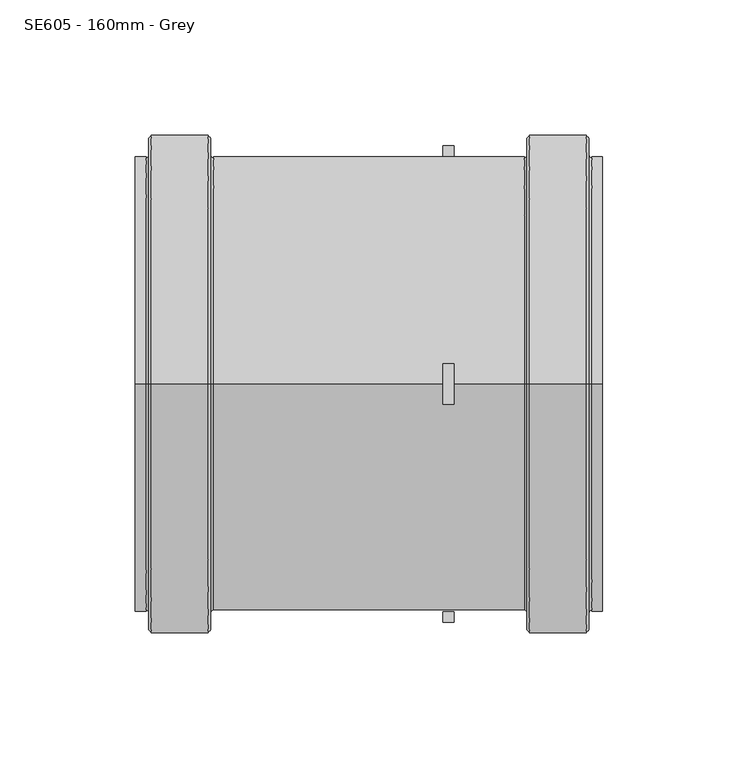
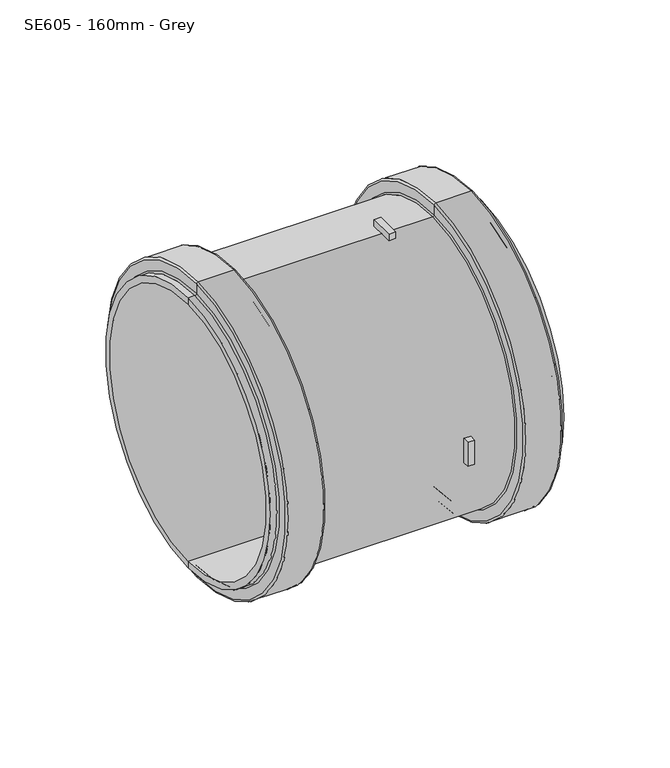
"""IFC4 building model written with IfcOpenShell, lengths in millimetres: pipe fitting geometry, MarleyPlumbingAndDrainage_PipeFitting_DoubleRingCoupling_SE305 : SE605 - 160mm - Grey."""

from ifc_helpers import new_model, si_unit, point, frame, origin, place, context, project, spatial, polyline, circle_curve, ellipse_curve, trimmed, source, transform, mapped, element, save
from ifc_brep_helpers import plane_surface, cylinder_surface, revolved_surface, advanced_brep


def se605_160mm_grey_3b880e0b(model_context):
    return source(origin(), model_context, "Body", "AdvancedBrep", [
        advanced_brep(
        [(-72.3253818, 0.0, -84.0), (-72.3253818, 0.0, 84.0), (42.6746182, 0.0, 84.0), (42.6746182, 0.0, -84.0), (71.6746182, 0.0, -80.0), (71.6746182, 0.0, 80.0), (-101.3253818, 0.0, 80.0), (-101.3253818, 0.0, -80.0), (71.6746182, 0.0, -84.0), (71.6746182, 0.0, 84.0), (67.6746182, 0.0, -84.0), (67.6746182, 0.0, 84.0), (66.6746182, 0.0, -85.0), (66.6746182, 0.0, 85.0), (66.6746182, 0.0, -91.0), (66.6746182, 0.0, 91.0), (65.6746182, 0.0, -92.0), (65.6746182, 0.0, 92.0), (44.6746182, 0.0, -92.0), (44.6746182, 0.0, 92.0), (43.6746182, 0.0, -91.0), (43.6746182, 0.0, 91.0), (43.6746182, 0.0, -85.0), (43.6746182, 0.0, 85.0), (-73.3253818, 0.0, -85.0), (-73.3253818, 0.0, 85.0), (-73.3253818, 0.0, -91.0), (-73.3253818, 0.0, 91.0), (-74.3253818, 0.0, -92.0), (-74.3253818, 0.0, 92.0), (-95.3253818, 0.0, -92.0), (-95.3253818, 0.0, 92.0), (-96.3253818, 0.0, -91.0), (-96.3253818, 0.0, 91.0), (-96.3253818, 0.0, -85.0), (-96.3253818, 0.0, 85.0), (-97.3253818, 0.0, -84.0), (-97.3253818, 0.0, 84.0), (-101.3253818, 0.0, -84.0), (-101.3253818, 0.0, 84.0)],
        [
            (0, 1, circle_curve(frame((-72.3253818, 0.0, 0.0), z_axis=(1.0, 0.0, 0.0), x_axis=(0.0, 0.0, 1.0)), 84.0)),
            (1, 2),
            (2, 3, circle_curve(frame((42.6746182, 0.0, 0.0), z_axis=(-1.0, 0.0, 0.0), x_axis=(0.0, 0.0, 1.0)), 84.0)),
            (3, 0),
            (1, 0, circle_curve(frame((-72.3253818, 0.0, 0.0), z_axis=(1.0, 0.0, 0.0), x_axis=(0.0, 0.0, 1.0)), 84.0)),
            (3, 2, circle_curve(frame((42.6746182, 0.0, 0.0), z_axis=(-1.0, 0.0, 0.0), x_axis=(0.0, 0.0, 1.0)), 84.0)),
            (4, 5, circle_curve(frame((71.6746182, 0.0, 0.0), z_axis=(1.0, 0.0, 0.0), x_axis=(0.0, 0.0, 1.0)), 80.0)),
            (5, 6),
            (6, 7, circle_curve(frame((-101.3253818, 0.0, 0.0), z_axis=(-1.0, 0.0, 0.0), x_axis=(0.0, 0.0, 1.0)), 80.0)),
            (7, 4),
            (5, 4, circle_curve(frame((71.6746182, 0.0, 0.0), z_axis=(1.0, 0.0, 0.0), x_axis=(0.0, 0.0, 1.0)), 80.0)),
            (7, 6, circle_curve(frame((-101.3253818, 0.0, 0.0), z_axis=(-1.0, 0.0, 0.0), x_axis=(0.0, 0.0, 1.0)), 80.0)),
            (4, 8),
            (8, 9, circle_curve(frame((71.6746182, 0.0, 0.0), z_axis=(1.0, 0.0, 0.0), x_axis=(0.0, 0.0, 1.0)), 84.0)),
            (9, 5),
            (9, 8, circle_curve(frame((71.6746182, 0.0, 0.0), z_axis=(1.0, 0.0, 0.0), x_axis=(0.0, 0.0, 1.0)), 84.0)),
            (8, 10),
            (10, 11, circle_curve(frame((67.6746182, 0.0, 0.0), z_axis=(1.0, 0.0, 0.0), x_axis=(0.0, 0.0, 1.0)), 84.0)),
            (11, 9),
            (11, 10, circle_curve(frame((67.6746182, 0.0, 0.0), z_axis=(1.0, 0.0, 0.0), x_axis=(0.0, 0.0, 1.0)), 84.0)),
            (10, 12, circle_curve(frame((67.6746182, 0.0, -85.0), z_axis=(0.0, -1.0, 0.0), x_axis=(1.0, 0.0, 0.0)), 1.0)),
            (12, 13, circle_curve(frame((66.6746182, 0.0, 0.0), z_axis=(1.0, 0.0, 0.0), x_axis=(0.0, 0.0, 1.0)), 85.0)),
            (13, 11, circle_curve(frame((67.6746182, 0.0, 85.0), z_axis=(0.0, -1.0, 0.0), x_axis=(1.0, 0.0, 0.0)), 1.0)),
            (13, 12, circle_curve(frame((66.6746182, 0.0, 0.0), z_axis=(1.0, 0.0, 0.0), x_axis=(0.0, 0.0, 1.0)), 85.0)),
            (12, 14),
            (14, 15, circle_curve(frame((66.6746182, 0.0, 0.0), z_axis=(1.0, 0.0, 0.0), x_axis=(0.0, 0.0, 1.0)), 91.0)),
            (15, 13),
            (15, 14, circle_curve(frame((66.6746182, 0.0, 0.0), z_axis=(1.0, 0.0, 0.0), x_axis=(0.0, 0.0, 1.0)), 91.0)),
            (14, 16, circle_curve(frame((65.6746182, 0.0, -91.0), z_axis=(0.0, 1.0, 0.0), x_axis=(1.0, 0.0, 0.0)), 1.0)),
            (16, 17, circle_curve(frame((65.6746182, 0.0, 0.0), z_axis=(1.0, 0.0, 0.0), x_axis=(0.0, 0.0, 1.0)), 92.0)),
            (17, 15, circle_curve(frame((65.6746182, 0.0, 91.0), z_axis=(0.0, 1.0, 0.0), x_axis=(1.0, 0.0, 0.0)), 1.0)),
            (17, 16, circle_curve(frame((65.6746182, 0.0, 0.0), z_axis=(1.0, 0.0, 0.0), x_axis=(0.0, 0.0, 1.0)), 92.0)),
            (16, 18),
            (18, 19, circle_curve(frame((44.6746182, 0.0, 0.0), z_axis=(1.0, 0.0, 0.0), x_axis=(0.0, 0.0, 1.0)), 92.0)),
            (19, 17),
            (19, 18, circle_curve(frame((44.6746182, 0.0, 0.0), z_axis=(1.0, 0.0, 0.0), x_axis=(0.0, 0.0, 1.0)), 92.0)),
            (18, 20, circle_curve(frame((44.6746182, 0.0, -91.0), z_axis=(0.0, 1.0, 0.0), x_axis=(1.0, 0.0, 0.0)), 1.0)),
            (20, 21, circle_curve(frame((43.6746182, 0.0, 0.0), z_axis=(1.0, 0.0, 0.0), x_axis=(0.0, 0.0, 1.0)), 91.0)),
            (21, 19, circle_curve(frame((44.6746182, 0.0, 91.0), z_axis=(0.0, 1.0, 0.0), x_axis=(1.0, 0.0, 0.0)), 1.0)),
            (21, 20, circle_curve(frame((43.6746182, 0.0, 0.0), z_axis=(1.0, 0.0, 0.0), x_axis=(0.0, 0.0, 1.0)), 91.0)),
            (20, 22),
            (22, 23, circle_curve(frame((43.6746182, 0.0, 0.0), z_axis=(1.0, 0.0, 0.0), x_axis=(0.0, 0.0, 1.0)), 85.0)),
            (23, 21),
            (23, 22, circle_curve(frame((43.6746182, 0.0, 0.0), z_axis=(1.0, 0.0, 0.0), x_axis=(0.0, 0.0, 1.0)), 85.0)),
            (2, 23, circle_curve(frame((42.6746182, 0.0, 85.0), z_axis=(0.0, -1.0, 0.0), x_axis=(1.0, 0.0, 0.0)), 1.0)),
            (22, 3, circle_curve(frame((42.6746182, 0.0, -85.0), z_axis=(0.0, -1.0, 0.0), x_axis=(1.0, 0.0, 0.0)), 1.0)),
            (0, 24, circle_curve(frame((-72.3253818, 0.0, -85.0), z_axis=(0.0, -1.0, 0.0), x_axis=(1.0, 0.0, 0.0)), 1.0)),
            (24, 25, circle_curve(frame((-73.3253818, 0.0, 0.0), z_axis=(1.0, 0.0, 0.0), x_axis=(0.0, 0.0, 1.0)), 85.0)),
            (25, 1, circle_curve(frame((-72.3253818, 0.0, 85.0), z_axis=(0.0, -1.0, 0.0), x_axis=(1.0, 0.0, 0.0)), 1.0)),
            (25, 24, circle_curve(frame((-73.3253818, 0.0, 0.0), z_axis=(1.0, 0.0, 0.0), x_axis=(0.0, 0.0, 1.0)), 85.0)),
            (24, 26),
            (26, 27, circle_curve(frame((-73.3253818, 0.0, 0.0), z_axis=(1.0, 0.0, 0.0), x_axis=(0.0, 0.0, 1.0)), 91.0)),
            (27, 25),
            (27, 26, circle_curve(frame((-73.3253818, 0.0, 0.0), z_axis=(1.0, 0.0, 0.0), x_axis=(0.0, 0.0, 1.0)), 91.0)),
            (26, 28, circle_curve(frame((-74.3253818, 0.0, -91.0), z_axis=(0.0, 1.0, 0.0), x_axis=(1.0, 0.0, 0.0)), 1.0)),
            (28, 29, circle_curve(frame((-74.3253818, 0.0, 0.0), z_axis=(1.0, 0.0, 0.0), x_axis=(0.0, 0.0, 1.0)), 92.0)),
            (29, 27, circle_curve(frame((-74.3253818, 0.0, 91.0), z_axis=(0.0, 1.0, 0.0), x_axis=(1.0, 0.0, 0.0)), 1.0)),
            (29, 28, circle_curve(frame((-74.3253818, 0.0, 0.0), z_axis=(1.0, 0.0, 0.0), x_axis=(0.0, 0.0, 1.0)), 92.0)),
            (28, 30),
            (30, 31, circle_curve(frame((-95.3253818, 0.0, 0.0), z_axis=(1.0, 0.0, 0.0), x_axis=(0.0, 0.0, 1.0)), 92.0)),
            (31, 29),
            (31, 30, circle_curve(frame((-95.3253818, 0.0, 0.0), z_axis=(1.0, 0.0, 0.0), x_axis=(0.0, 0.0, 1.0)), 92.0)),
            (30, 32, circle_curve(frame((-95.3253818, 0.0, -91.0), z_axis=(0.0, 1.0, 0.0), x_axis=(1.0, 0.0, 0.0)), 1.0)),
            (32, 33, circle_curve(frame((-96.3253818, 0.0, 0.0), z_axis=(1.0, 0.0, 0.0), x_axis=(0.0, 0.0, 1.0)), 91.0)),
            (33, 31, circle_curve(frame((-95.3253818, 0.0, 91.0), z_axis=(0.0, 1.0, 0.0), x_axis=(1.0, 0.0, 0.0)), 1.0)),
            (33, 32, circle_curve(frame((-96.3253818, 0.0, 0.0), z_axis=(1.0, 0.0, 0.0), x_axis=(0.0, 0.0, 1.0)), 91.0)),
            (32, 34),
            (34, 35, circle_curve(frame((-96.3253818, 0.0, 0.0), z_axis=(1.0, 0.0, 0.0), x_axis=(0.0, 0.0, 1.0)), 85.0)),
            (35, 33),
            (35, 34, circle_curve(frame((-96.3253818, 0.0, 0.0), z_axis=(1.0, 0.0, 0.0), x_axis=(0.0, 0.0, 1.0)), 85.0)),
            (34, 36, circle_curve(frame((-97.3253818, 0.0, -85.0), z_axis=(0.0, -1.0, 0.0), x_axis=(1.0, 0.0, 0.0)), 1.0)),
            (36, 37, circle_curve(frame((-97.3253818, 0.0, 0.0), z_axis=(1.0, 0.0, 0.0), x_axis=(0.0, 0.0, 1.0)), 84.0)),
            (37, 35, circle_curve(frame((-97.3253818, 0.0, 85.0), z_axis=(0.0, -1.0, 0.0), x_axis=(1.0, 0.0, 0.0)), 1.0)),
            (37, 36, circle_curve(frame((-97.3253818, 0.0, 0.0), z_axis=(1.0, 0.0, 0.0), x_axis=(0.0, 0.0, 1.0)), 84.0)),
            (36, 38),
            (38, 39, circle_curve(frame((-101.3253818, 0.0, 0.0), z_axis=(1.0, 0.0, 0.0), x_axis=(0.0, 0.0, 1.0)), 84.0)),
            (39, 37),
            (39, 38, circle_curve(frame((-101.3253818, 0.0, 0.0), z_axis=(1.0, 0.0, 0.0), x_axis=(0.0, 0.0, 1.0)), 84.0)),
            (6, 39),
            (38, 7),
        ],
        [
            cylinder_surface(frame((-1239.2325039, 0.0, 0.0), z_axis=(-1.0, 0.0, 0.0), x_axis=(0.0, 0.0, 1.0)), 84.0),
            revolved_surface(polyline([(-101.32538180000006, 0.0, 80.0), (71.67461819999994, 0.0, 80.0)]), (-1239.2325039, 0.0, 0.0), (-1.0, 0.0, 0.0)),
            plane_surface(frame((71.6746182, 0.0, 0.0), z_axis=(1.0, 0.0, 0.0), x_axis=(0.0, 0.0, 1.0))),
            revolved_surface(trimmed(ellipse_curve(frame((67.6746182, 0.0, 85.0), z_axis=(0.0, 1.0, 0.0), x_axis=(1.0, 0.0, 0.0)), 1.0, 1.0), [point((67.6746182, 0.0, 84.0))], [point((66.6746182, 0.0, 85.0))], True, "CARTESIAN"), (-1239.2325039, 0.0, 0.0), (-1.0, 0.0, 0.0)),
            plane_surface(frame((66.6746182, 0.0, 0.0), z_axis=(1.0, 0.0, 0.0), x_axis=(0.0, 0.0, 1.0))),
            revolved_surface(trimmed(ellipse_curve(frame((65.6746182, 0.0, 91.0), z_axis=(0.0, -1.0, 0.0), x_axis=(1.0, 0.0, 0.0)), 1.0, 1.0), [point((66.6746182, 0.0, 91.0))], [point((65.6746182, 0.0, 92.0))], True, "CARTESIAN"), (-1239.2325039, 0.0, 0.0), (-1.0, 0.0, 0.0)),
            cylinder_surface(frame((-1239.2325039, 0.0, 0.0), z_axis=(-1.0, 0.0, 0.0), x_axis=(0.0, 0.0, 1.0)), 92.0),
            revolved_surface(trimmed(ellipse_curve(frame((44.6746182, 0.0, 91.0), z_axis=(0.0, -1.0, 0.0), x_axis=(1.0, 0.0, 0.0)), 1.0, 1.0), [point((44.6746182, 0.0, 92.0))], [point((43.6746182, 0.0, 91.0))], True, "CARTESIAN"), (-1239.2325039, 0.0, 0.0), (-1.0, 0.0, 0.0)),
            plane_surface(frame((43.6746182, 0.0, 0.0), z_axis=(-1.0, 0.0, 0.0), x_axis=(0.0, 0.0, 1.0))),
            revolved_surface(trimmed(ellipse_curve(frame((42.6746182, 0.0, 85.0), z_axis=(0.0, 1.0, 0.0), x_axis=(1.0, 0.0, 0.0)), 1.0, 1.0), [point((43.6746182, 0.0, 85.0))], [point((42.6746182, 0.0, 84.0))], True, "CARTESIAN"), (-1239.2325039, 0.0, 0.0), (-1.0, 0.0, 0.0)),
            revolved_surface(trimmed(ellipse_curve(frame((-72.3253818, 0.0, 85.0), z_axis=(0.0, 1.0, 0.0), x_axis=(1.0, 0.0, 0.0)), 1.0, 1.0), [point((-72.3253818, 0.0, 84.0))], [point((-73.3253818, 0.0, 85.0))], True, "CARTESIAN"), (-1239.2325039, 0.0, 0.0), (-1.0, 0.0, 0.0)),
            plane_surface(frame((-73.3253818, 0.0, 0.0), z_axis=(1.0, 0.0, 0.0), x_axis=(0.0, 0.0, 1.0))),
            revolved_surface(trimmed(ellipse_curve(frame((-74.3253818, 0.0, 91.0), z_axis=(0.0, -1.0, 0.0), x_axis=(1.0, 0.0, 0.0)), 1.0, 1.0), [point((-73.3253818, 0.0, 91.0))], [point((-74.3253818, 0.0, 92.0))], True, "CARTESIAN"), (-1239.2325039, 0.0, 0.0), (-1.0, 0.0, 0.0)),
            revolved_surface(trimmed(ellipse_curve(frame((-95.3253818, 0.0, 91.0), z_axis=(0.0, -1.0, 0.0), x_axis=(1.0, 0.0, 0.0)), 1.0, 1.0), [point((-95.3253818, 0.0, 92.0))], [point((-96.3253818, 0.0, 91.0))], True, "CARTESIAN"), (-1239.2325039, 0.0, 0.0), (-1.0, 0.0, 0.0)),
            plane_surface(frame((-96.3253818, 0.0, 0.0), z_axis=(-1.0, 0.0, 0.0), x_axis=(0.0, 0.0, 1.0))),
            revolved_surface(trimmed(ellipse_curve(frame((-97.3253818, 0.0, 85.0), z_axis=(0.0, 1.0, 0.0), x_axis=(1.0, 0.0, 0.0)), 1.0, 1.0), [point((-96.3253818, 0.0, 85.0))], [point((-97.3253818, 0.0, 84.0))], True, "CARTESIAN"), (-1239.2325039, 0.0, 0.0), (-1.0, 0.0, 0.0)),
            plane_surface(frame((-101.3253818, 0.0, 0.0), z_axis=(-1.0, 0.0, 0.0), x_axis=(0.0, 0.0, 1.0))),
        ],
        [
            (0, [[1, 2, 3, 4]]),
            (0, [[-2, 5, -4, 6]]),
            (1, [[7, 8, 9, 10]]),
            (1, [[-8, 11, -10, 12]]),
            (2, [[-7, 13, 14, 15]]),
            (2, [[-11, -15, 16, -13]]),
            (0, [[-14, 17, 18, 19]]),
            (0, [[-16, -19, 20, -17]]),
            (3, [[-18, 21, 22, 23]]),
            (3, [[-20, -23, 24, -21]]),
            (4, [[-22, 25, 26, 27]]),
            (4, [[-24, -27, 28, -25]]),
            (5, [[-26, 29, 30, 31]]),
            (5, [[-28, -31, 32, -29]]),
            (6, [[-30, 33, 34, 35]]),
            (6, [[-32, -35, 36, -33]]),
            (7, [[-34, 37, 38, 39]]),
            (7, [[-36, -39, 40, -37]]),
            (8, [[-38, 41, 42, 43]]),
            (8, [[-40, -43, 44, -41]]),
            (9, [[-3, 45, -42, 46]]),
            (9, [[-6, -46, -44, -45]]),
            (10, [[-1, 47, 48, 49]]),
            (10, [[-5, -49, 50, -47]]),
            (11, [[-48, 51, 52, 53]]),
            (11, [[-50, -53, 54, -51]]),
            (12, [[-52, 55, 56, 57]]),
            (12, [[-54, -57, 58, -55]]),
            (6, [[-56, 59, 60, 61]]),
            (6, [[-58, -61, 62, -59]]),
            (13, [[-60, 63, 64, 65]]),
            (13, [[-62, -65, 66, -63]]),
            (14, [[-64, 67, 68, 69]]),
            (14, [[-66, -69, 70, -67]]),
            (15, [[-68, 71, 72, 73]]),
            (15, [[-70, -73, 74, -71]]),
            (0, [[-72, 75, 76, 77]]),
            (0, [[-74, -77, 78, -75]]),
            (16, [[-9, 79, -76, 80]]),
            (16, [[-12, -80, -78, -79]]),
        ],
    ),
        advanced_brep(
        [(16.6746182, -7.5, 84.1665017), (16.6746182, 7.5, 84.1665017), (16.6746182, 7.5, 88.1816307), (16.6746182, -7.5, 88.1816307), (12.6746182, -7.5, 84.1665017), (12.6746182, -7.5, 88.1816307), (12.6746182, 7.5, 88.1816307), (12.6746182, 7.5, 84.1665017)],
        [
            (0, 1, circle_curve(frame((16.6746182, 0.0, 0.0), z_axis=(-1.0, 0.0, 0.0), x_axis=(0.0, 1.0, 0.0)), 84.5)),
            (1, 2),
            (2, 3, circle_curve(frame((16.6746182, 0.0, 0.0), z_axis=(1.0, 0.0, 0.0), x_axis=(0.0, 1.0, 0.0)), 88.5)),
            (3, 0),
            (4, 5),
            (5, 6, circle_curve(frame((12.6746182, 0.0, 0.0), z_axis=(-1.0, 0.0, 0.0), x_axis=(0.0, 1.0, 0.0)), 88.5)),
            (6, 7),
            (7, 4, circle_curve(frame((12.6746182, 0.0, 0.0), z_axis=(1.0, 0.0, 0.0), x_axis=(0.0, 1.0, 0.0)), 84.5)),
            (0, 4),
            (7, 1),
            (6, 2),
            (5, 3),
        ],
        [
            plane_surface(frame((16.6746182, 84.5, 0.0), z_axis=(1.0, 0.0, 0.0), x_axis=(0.0, 0.0, -1.0))),
            plane_surface(frame((12.6746182, 84.5, 0.0), z_axis=(-1.0, 0.0, 0.0), x_axis=(0.0, 0.0, 1.0))),
            revolved_surface(polyline([(12.6746182, 84.5, 0.0), (16.6746182, 84.5, 0.0)]), (12.6746182, 0.0, 0.0), (-1.0, 0.0, 0.0)),
            plane_surface(frame((16.6746182, 7.5, 84.1665017), z_axis=(0.0, 1.0, 0.0), x_axis=(-1.0, 0.0, 0.0))),
            cylinder_surface(frame((12.6746182, 0.0, 0.0), z_axis=(1.0, 0.0, 0.0), x_axis=(0.0, 1.0, 0.0)), 88.5),
            plane_surface(frame((16.6746182, -7.5, 88.1816307), z_axis=(0.0, -1.0, 0.0), x_axis=(-1.0, 0.0, 0.0))),
        ],
        [
            (0, [[1, 2, 3, 4]]),
            (1, [[5, 6, 7, 8]]),
            (2, [[-1, 9, -8, 10]]),
            (3, [[-2, -10, -7, 11]]),
            (4, [[-3, -11, -6, 12]]),
            (5, [[-4, -12, -5, -9]]),
        ],
    ),
        advanced_brep(
        [(16.6746182, -84.1665017, 7.5), (16.6746182, -88.1816307, 7.5), (16.6746182, -88.1816307, -7.5), (16.6746182, -84.1665017, -7.5), (12.6746182, -84.1665017, 7.5), (12.6746182, -84.1665017, -7.5), (12.6746182, -88.1816307, -7.5), (12.6746182, -88.1816307, 7.5)],
        [
            (0, 1),
            (1, 2, circle_curve(frame((16.6746182, 0.0, 0.0), z_axis=(1.0, 0.0, 0.0), x_axis=(0.0, 1.0, 0.0)), 88.5)),
            (2, 3),
            (3, 0, circle_curve(frame((16.6746182, 0.0, 0.0), z_axis=(-1.0, 0.0, 0.0), x_axis=(0.0, 1.0, 0.0)), 84.5)),
            (4, 5, circle_curve(frame((12.6746182, 0.0, 0.0), z_axis=(1.0, 0.0, 0.0), x_axis=(0.0, 1.0, 0.0)), 84.5)),
            (5, 6),
            (6, 7, circle_curve(frame((12.6746182, 0.0, 0.0), z_axis=(-1.0, 0.0, 0.0), x_axis=(0.0, 1.0, 0.0)), 88.5)),
            (7, 4),
            (0, 4),
            (7, 1),
            (6, 2),
            (5, 3),
        ],
        [
            plane_surface(frame((16.6746182, 84.5, 0.0), z_axis=(1.0, 0.0, 0.0), x_axis=(0.0, 0.0, -1.0))),
            plane_surface(frame((12.6746182, 84.5, 0.0), z_axis=(-1.0, 0.0, 0.0), x_axis=(0.0, 0.0, 1.0))),
            plane_surface(frame((16.6746182, -84.1665017, 7.5), z_axis=(0.0, 0.0, 1.0), x_axis=(-1.0, 0.0, 0.0))),
            cylinder_surface(frame((-14.8253818, 0.0, 0.0), z_axis=(1.0, 0.0, 0.0), x_axis=(0.0, 1.0, 0.0)), 88.5),
            plane_surface(frame((16.6746182, -88.1816307, -7.5), z_axis=(0.0, 0.0, -1.0), x_axis=(-1.0, 0.0, 0.0))),
            revolved_surface(polyline([(12.6746182, 84.5, 0.0), (16.674618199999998, 84.5, 0.0)]), (-14.8253818, 0.0, 0.0), (-1.0, 0.0, 0.0)),
        ],
        [
            (0, [[1, 2, 3, 4]]),
            (1, [[5, 6, 7, 8]]),
            (2, [[-1, 9, -8, 10]]),
            (3, [[-2, -10, -7, 11]]),
            (4, [[-3, -11, -6, 12]]),
            (5, [[-4, -12, -5, -9]]),
        ],
    ),
        advanced_brep(
        [(16.6746182, -7.5, -84.1665017), (16.6746182, -7.5, -88.1816307), (16.6746182, 7.5, -88.1816307), (16.6746182, 7.5, -84.1665017), (12.6746182, -7.5, -84.1665017), (12.6746182, 7.5, -84.1665017), (12.6746182, 7.5, -88.1816307), (12.6746182, -7.5, -88.1816307)],
        [
            (0, 1),
            (1, 2, circle_curve(frame((16.6746182, 0.0, 0.0), z_axis=(1.0, 0.0, 0.0), x_axis=(0.0, 1.0, 0.0)), 88.5)),
            (2, 3),
            (3, 0, circle_curve(frame((16.6746182, 0.0, 0.0), z_axis=(-1.0, 0.0, 0.0), x_axis=(0.0, 1.0, 0.0)), 84.5)),
            (4, 5, circle_curve(frame((12.6746182, 0.0, 0.0), z_axis=(1.0, 0.0, 0.0), x_axis=(0.0, 1.0, 0.0)), 84.5)),
            (5, 6),
            (6, 7, circle_curve(frame((12.6746182, 0.0, 0.0), z_axis=(-1.0, 0.0, 0.0), x_axis=(0.0, 1.0, 0.0)), 88.5)),
            (7, 4),
            (0, 4),
            (7, 1),
            (6, 2),
            (5, 3),
        ],
        [
            plane_surface(frame((16.6746182, 84.5, 0.0), z_axis=(1.0, 0.0, 0.0), x_axis=(0.0, 0.0, -1.0))),
            plane_surface(frame((12.6746182, 84.5, 0.0), z_axis=(-1.0, 0.0, 0.0), x_axis=(0.0, 0.0, 1.0))),
            plane_surface(frame((16.6746182, -7.5, -84.1665017), z_axis=(0.0, -1.0, 0.0), x_axis=(-1.0, 0.0, 0.0))),
            cylinder_surface(frame((-14.8253818, 0.0, 0.0), z_axis=(1.0, 0.0, 0.0), x_axis=(0.0, 1.0, 0.0)), 88.5),
            plane_surface(frame((16.6746182, 7.5, -88.1816307), z_axis=(0.0, 1.0, 0.0), x_axis=(-1.0, 0.0, 0.0))),
            revolved_surface(polyline([(12.6746182, 84.5, 0.0), (16.674618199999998, 84.5, 0.0)]), (-14.8253818, 0.0, 0.0), (-1.0, 0.0, 0.0)),
        ],
        [
            (0, [[1, 2, 3, 4]]),
            (1, [[5, 6, 7, 8]]),
            (2, [[-1, 9, -8, 10]]),
            (3, [[-2, -10, -7, 11]]),
            (4, [[-3, -11, -6, 12]]),
            (5, [[-4, -12, -5, -9]]),
        ],
    ),
        advanced_brep(
        [(16.6746182, 84.1665017, -7.5), (16.6746182, 88.1816307, -7.5), (16.6746182, 88.1816307, 7.5), (16.6746182, 84.1665017, 7.5), (12.6746182, 84.1665017, -7.5), (12.6746182, 84.1665017, 7.5), (12.6746182, 88.1816307, 7.5), (12.6746182, 88.1816307, -7.5)],
        [
            (0, 1),
            (1, 2, circle_curve(frame((16.6746182, 0.0, 0.0), z_axis=(1.0, 0.0, 0.0), x_axis=(0.0, 1.0, 0.0)), 88.5)),
            (2, 3),
            (3, 0, circle_curve(frame((16.6746182, 0.0, 0.0), z_axis=(-1.0, 0.0, 0.0), x_axis=(0.0, 1.0, 0.0)), 84.5)),
            (4, 5, circle_curve(frame((12.6746182, 0.0, 0.0), z_axis=(1.0, 0.0, 0.0), x_axis=(0.0, 1.0, 0.0)), 84.5)),
            (5, 6),
            (6, 7, circle_curve(frame((12.6746182, 0.0, 0.0), z_axis=(-1.0, 0.0, 0.0), x_axis=(0.0, 1.0, 0.0)), 88.5)),
            (7, 4),
            (0, 4),
            (7, 1),
            (6, 2),
            (5, 3),
        ],
        [
            plane_surface(frame((16.6746182, 84.5, 0.0), z_axis=(1.0, 0.0, 0.0), x_axis=(0.0, 0.0, -1.0))),
            plane_surface(frame((12.6746182, 84.5, 0.0), z_axis=(-1.0, 0.0, 0.0), x_axis=(0.0, 0.0, 1.0))),
            plane_surface(frame((16.6746182, 84.1665017, -7.5), z_axis=(0.0, 0.0, -1.0), x_axis=(-1.0, 0.0, 0.0))),
            cylinder_surface(frame((-14.8253818, 0.0, 0.0), z_axis=(1.0, 0.0, 0.0), x_axis=(0.0, 1.0, 0.0)), 88.5),
            plane_surface(frame((16.6746182, 88.1816307, 7.5), z_axis=(0.0, 0.0, 1.0), x_axis=(-1.0, 0.0, 0.0))),
            revolved_surface(polyline([(12.6746182, 84.5, 0.0), (16.674618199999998, 84.5, 0.0)]), (-14.8253818, 0.0, 0.0), (-1.0, 0.0, 0.0)),
        ],
        [
            (0, [[1, 2, 3, 4]]),
            (1, [[5, 6, 7, 8]]),
            (2, [[-1, 9, -8, 10]]),
            (3, [[-2, -10, -7, 11]]),
            (4, [[-3, -11, -6, 12]]),
            (5, [[-4, -12, -5, -9]]),
        ],
    ),
    ])


if __name__ == "__main__":
    model = new_model("IFC4")
    model_context = context("Model", 3, world=origin())
    ifc_project = project(units=[si_unit("LENGTHUNIT", "METRE", prefix="MILLI")], contexts=[model_context])
    site = spatial("IfcSite", under=ifc_project)
    building = spatial("IfcBuilding", under=site)
    placement = place(None, origin())
    se605_160mm_grey_shape = se605_160mm_grey_3b880e0b(model_context)
    element("IfcPipeFitting", 1, ObjectType="MarleyPlumbingAndDrainage_PipeFitting_DoubleRingCoupling_SE305 : SE605 - 160mm - Grey", at=placement, inside=building, context=model_context, shape_type="MappedRepresentation", body=[
        mapped(se605_160mm_grey_shape, transform((0.0, 0.0, 0.0), x_axis=(1.0, 0.0, 0.0), y_axis=(0.0, 1.0, 0.0), z_axis=(0.0, 0.0, 1.0))),
    ])
    save(model, "model.ifc")
